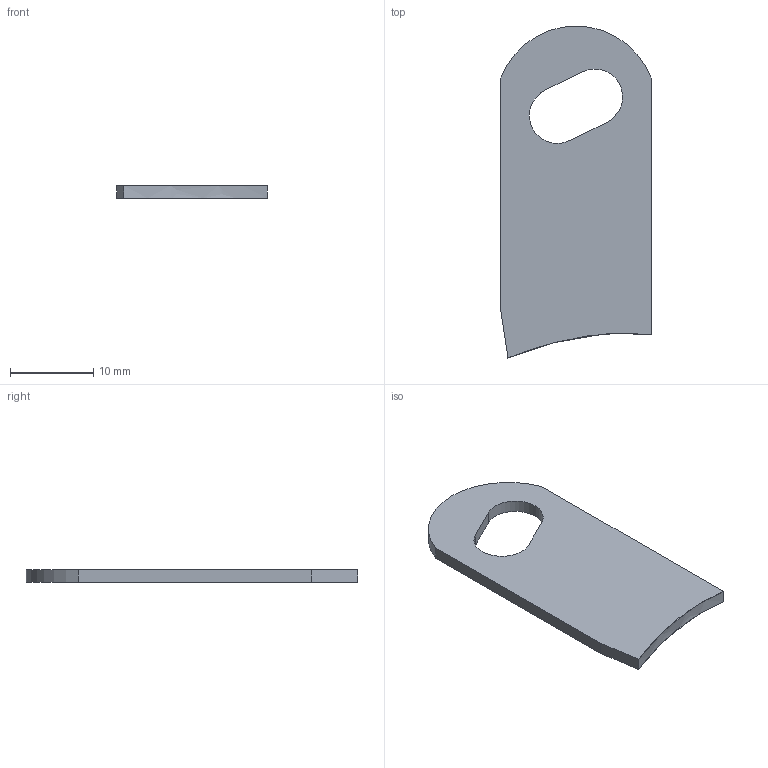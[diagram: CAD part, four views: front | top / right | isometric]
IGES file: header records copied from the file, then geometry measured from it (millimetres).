
Start section: START RECORD GO HERE.
Global section: file name: 20_M_EN_12041 (Chape Admission au chassis 2).igs; native system: IBM CATIA IGES - CATIA Version 5 Release 19 ; preprocessor: CATIA Version 5 Release 19 ; author: Calixthe; organization: MACHINEDECALOU; date: 20200123.093909; units: millimetre
Bounding box: 18 x 39.78 x 1.5 mm (x, y, z)
Surface area: 1360 mm2 (no closed solid volume)
Topology: 0 solids, 0 shells, 11 faces, 56 edges, 59 vertices
Faces by surface type: plane 7, revolution 3, extrusion 1
